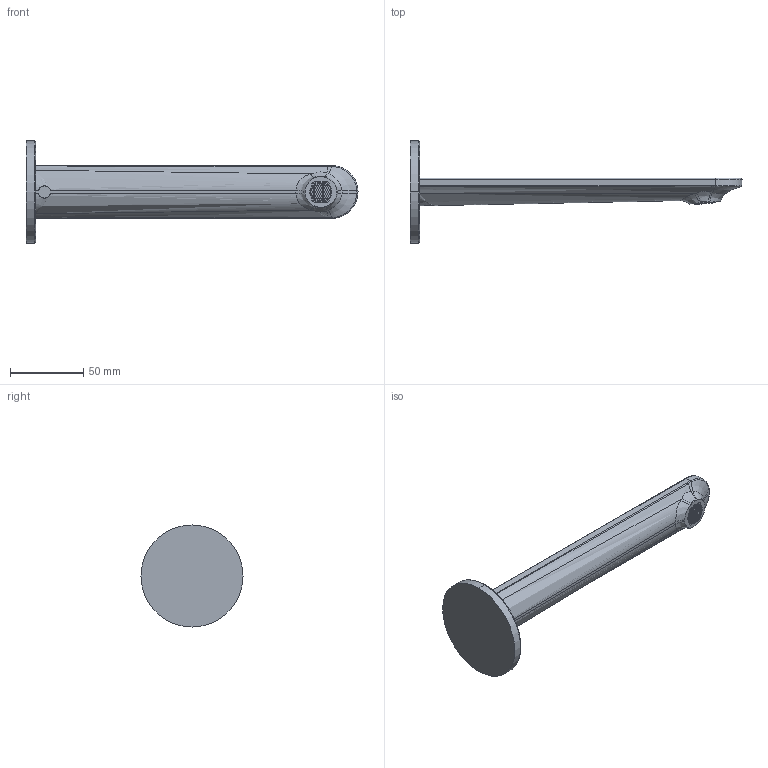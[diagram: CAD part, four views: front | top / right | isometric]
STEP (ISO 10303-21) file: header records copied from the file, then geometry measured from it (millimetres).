
FILE_DESCRIPTION (( 'STEP AP214' ), '1' );
FILE_NAME ('9921Q910 x architetti.STEP', '2025-01-13T16:12:19', ( '' ), ( '' ), 'SwSTEP 2.0', 'SolidWorks 2020', '' );
FILE_SCHEMA (( 'AUTOMOTIVE_DESIGN' ));
Length unit declared in the file: millimetre
Products named in the file (1): 9921Q910 x architetti
Bounding box: 227 x 69.8 x 69.8 mm (x, y, z)
Volume: 118865.3 mm3; surface area: 36351.5 mm2
Topology: 1 solids, 3 shells, 1008 faces, 2390 edges, 1390 vertices
Faces by surface type: plane 548, cylinder 351, bspline 94, cone 8, torus 7
Entity records: 41964 total; most frequent: CARTESIAN_POINT 11059, ORIENTED_EDGE 4780, DIRECTION 3700, EDGE_CURVE 2390, VECTOR 1482, LINE 1482, VERTEX_POINT 1390, AXIS2_PLACEMENT_3D 1109
